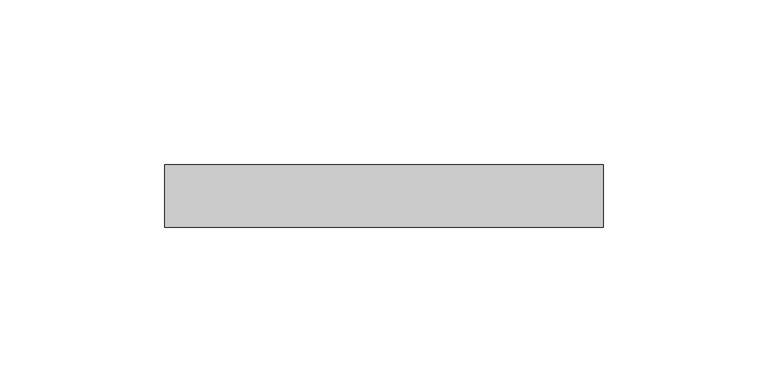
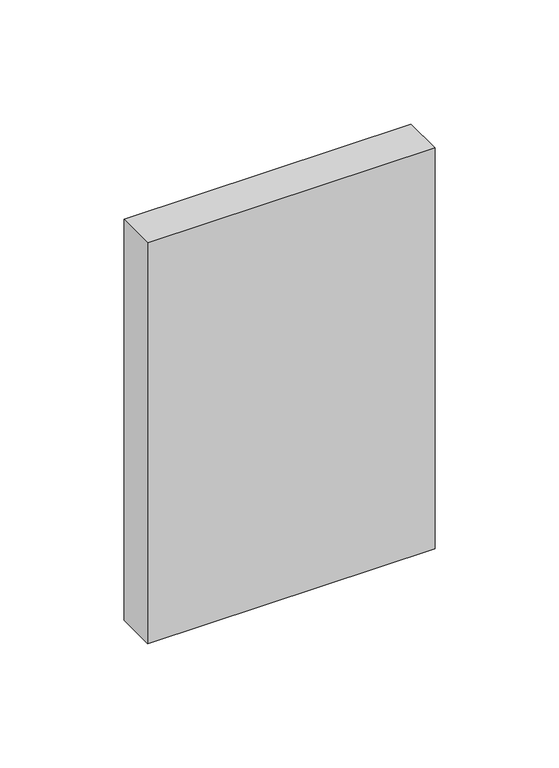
"""IFC4 building model written with IfcOpenShell, lengths in millimetres: proxy geometry, FOUNDATION^TABLE 6_RADIUS ENDS-POWER LID."""

from ifc_helpers import new_model, si_unit, frame, origin, place, context, project, spatial, polyline, outline, extrude, source, transform, mapped, element, save


def generic_models_f14fef5b(model_context):
    return source(origin(), model_context, "Body", "SweptSolid", [
        extrude(outline(polyline([(133.35, 0.0), (0.0, 0.0), (0.0, 19.05), (133.35, 19.05), (133.35, 0.0)])), frame((0.0, 0.0, -196.85), z_axis=(0.0, 0.0, 1.0), x_axis=(1.0, 0.0, 0.0)), (0.0, 0.0, 1.0), 196.85),
    ])


if __name__ == "__main__":
    model = new_model("IFC4")
    model_context = context("Model", 3, world=origin())
    ifc_project = project(units=[si_unit("LENGTHUNIT", "METRE", prefix="MILLI")], contexts=[model_context])
    site = spatial("IfcSite", under=ifc_project)
    building = spatial("IfcBuilding", under=site)
    placement = place(None, origin())
    generic_models_shape = generic_models_f14fef5b(model_context)
    element("IfcBuildingElementProxy", 1, Name="FOUNDATION^TABLE 6_RADIUS ENDS-POWER LID", ObjectType="FOUNDATION^TABLE 6_RADIUS ENDS-POWER LID", at=placement, inside=building, context=model_context, shape_type="MappedRepresentation", body=[
        mapped(generic_models_shape, transform((0.0, 0.0, 0.0), x_axis=(1.0, 0.0, 0.0), y_axis=(0.0, 1.0, 0.0), z_axis=(0.0, 0.0, 1.0))),
    ])
    save(model, "model.ifc")
